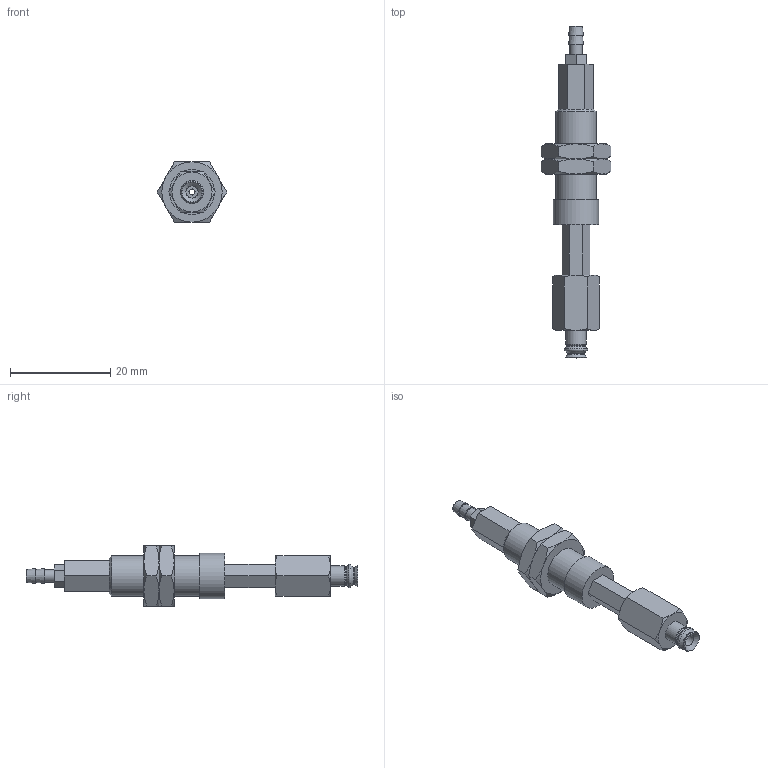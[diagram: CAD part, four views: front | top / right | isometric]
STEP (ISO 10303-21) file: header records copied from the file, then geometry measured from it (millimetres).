
FILE_DESCRIPTION(('STEP AP203'),'1');
FILE_NAME('-T.stp','2025-08-27T06:09:01',(' '),(' '),'Spatial InterOp 3D',' ',' ');
FILE_SCHEMA(('CONFIG_CONTROL_DESIGN'));
Length unit declared in the file: millimetre
Products named in the file (7): BNABPJTH-4-10-※-T; ADAPTER; NAPFTH-2A-10-MBODY; Nut-2A-10-h; NAPFTH-2A-10-FBODY; BPJG-4-※; T (2)
Assembly tree (7 placements, depth 2):
  BNABPJTH-4-10-※-T
    ADAPTER
    NAPFTH-2A-10-MBODY
    Nut-2A-10-h  x2
    NAPFTH-2A-10-FBODY
    BPJG-4-※
    T (2)
Bounding box: 13.86 x 66.1 x 12 mm (x, y, z)
Volume: 2837.3 mm3; surface area: 3480.1 mm2
Topology: 7 solids, 7 shells, 142 faces, 305 edges, 186 vertices
Faces by surface type: plane 65, cone 52, cylinder 16, torus 9
Full cylindrical faces by diameter (mm): 1.2 x3, 2 x2, 2.4 x1, 2.459 x1, 2.5 x1, 3 x3, 4 x1, 7.188 x2, 8 x1, 9 x1
Entity records: 3486 total; most frequent: CARTESIAN_POINT 773, DIRECTION 492, ORIENTED_EDGE 418, EDGE_CURVE 209, AXIS2_PLACEMENT_3D 204, EDGE_LOOP 178, VERTEX_POINT 149, FACE_OUTER_BOUND 143
